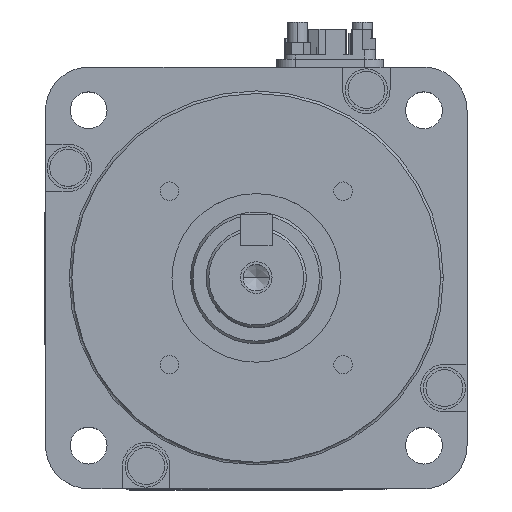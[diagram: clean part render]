
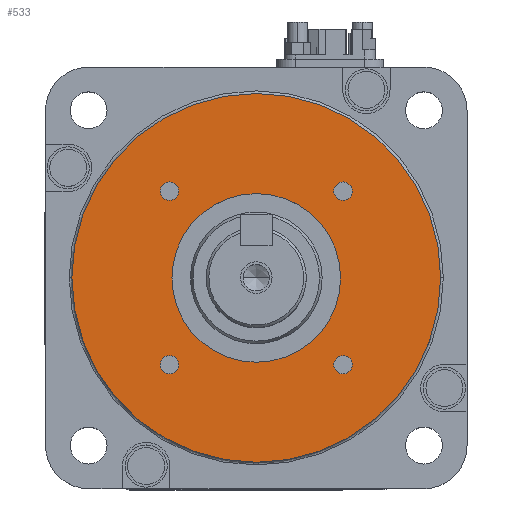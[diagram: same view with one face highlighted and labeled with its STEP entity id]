
A CAD part, top view. The second image highlights one B-rep face of the part: STEP entity #533.
In plain terms, the highlighted planar face has unit normal (0, 0, 1).
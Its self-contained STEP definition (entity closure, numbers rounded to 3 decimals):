
#533=ADVANCED_FACE('',(#4917,#4918,#4919,#4920,#4921,#4922),#4916,.T.);
#4916=PLANE('',#8308);
#4917=FACE_OUTER_BOUND('',#8309,.T.);
#4918=FACE_BOUND('',#8310,.T.);
#4919=FACE_BOUND('',#8311,.T.);
#4920=FACE_BOUND('',#8312,.T.);
#4921=FACE_BOUND('',#8313,.T.);
#4922=FACE_BOUND('',#8314,.T.);
#8305=CARTESIAN_POINT('',(-80.,-70.622,3.));
#8306=DIRECTION('',(0.,0.,1.));
#8307=DIRECTION('',(1.,0.,0.));
#8308=AXIS2_PLACEMENT_3D('',#8305,#8306,#8307);
#8309=EDGE_LOOP('',(#11277,#11278));
#8310=EDGE_LOOP('',(#11279,#11280));
#8311=EDGE_LOOP('',(#11281,#11282));
#8312=EDGE_LOOP('',(#11283,#11284));
#8313=EDGE_LOOP('',(#11285,#11286));
#8314=EDGE_LOOP('',(#11287,#11288));
#11277=ORIENTED_EDGE('',*,*,#13168,.T.);
#11278=ORIENTED_EDGE('',*,*,#13169,.T.);
#11279=ORIENTED_EDGE('',*,*,#13170,.F.);
#11280=ORIENTED_EDGE('',*,*,#13171,.F.);
#11281=ORIENTED_EDGE('',*,*,#13172,.F.);
#11282=ORIENTED_EDGE('',*,*,#13173,.F.);
#11283=ORIENTED_EDGE('',*,*,#13174,.F.);
#11284=ORIENTED_EDGE('',*,*,#13175,.F.);
#11285=ORIENTED_EDGE('',*,*,#13176,.F.);
#11286=ORIENTED_EDGE('',*,*,#13177,.F.);
#11287=ORIENTED_EDGE('',*,*,#13178,.F.);
#11288=ORIENTED_EDGE('',*,*,#13179,.F.);
#13168=EDGE_CURVE('',#21981,#21982,#21983,.T.);
#13169=EDGE_CURVE('',#21982,#21981,#21989,.T.);
#13170=EDGE_CURVE('',#21995,#21996,#21997,.T.);
#13171=EDGE_CURVE('',#21996,#21995,#22003,.T.);
#13172=EDGE_CURVE('',#22009,#22010,#22011,.T.);
#13173=EDGE_CURVE('',#22010,#22009,#22017,.T.);
#13174=EDGE_CURVE('',#22023,#22024,#22025,.T.);
#13175=EDGE_CURVE('',#22024,#22023,#22031,.T.);
#13176=EDGE_CURVE('',#22037,#22038,#22039,.T.);
#13177=EDGE_CURVE('',#22038,#22037,#22045,.T.);
#13178=EDGE_CURVE('',#22051,#22052,#22053,.T.);
#13179=EDGE_CURVE('',#22052,#22051,#22059,.T.);
#21981=VERTEX_POINT('',#28125);
#21982=VERTEX_POINT('',#28126);
#21983=CIRCLE('',#28130,35.);
#21989=CIRCLE('',#28134,35.);
#21995=VERTEX_POINT('',#28135);
#21996=VERTEX_POINT('',#28136);
#21997=CIRCLE('',#28140,1.75);
#22003=CIRCLE('',#28144,1.75);
#22009=VERTEX_POINT('',#28145);
#22010=VERTEX_POINT('',#28146);
#22011=CIRCLE('',#28150,1.75);
#22017=CIRCLE('',#28154,1.75);
#22023=VERTEX_POINT('',#28155);
#22024=VERTEX_POINT('',#28156);
#22025=CIRCLE('',#28160,1.75);
#22031=CIRCLE('',#28164,1.75);
#22037=VERTEX_POINT('',#28165);
#22038=VERTEX_POINT('',#28166);
#22039=CIRCLE('',#28170,1.75);
#22045=CIRCLE('',#28174,1.75);
#22051=VERTEX_POINT('',#28175);
#22052=VERTEX_POINT('',#28176);
#22053=CIRCLE('',#28180,16.);
#22059=CIRCLE('',#28184,16.);
#28125=CARTESIAN_POINT('',(35.,0.,3.));
#28126=CARTESIAN_POINT('',(-35.,0.,3.));
#28127=CARTESIAN_POINT('',(0.,0.,3.));
#28128=DIRECTION('',(0.,0.,1.));
#28129=DIRECTION('',(1.,0.,0.));
#28130=AXIS2_PLACEMENT_3D('',#28127,#28128,#28129);
#28131=CARTESIAN_POINT('',(0.,0.,3.));
#28132=DIRECTION('',(0.,0.,1.));
#28133=DIRECTION('',(1.,0.,0.));
#28134=AXIS2_PLACEMENT_3D('',#28131,#28132,#28133);
#28135=CARTESIAN_POINT('',(18.226,-16.476,3.));
#28136=CARTESIAN_POINT('',(14.726,-16.476,3.));
#28137=CARTESIAN_POINT('',(16.476,-16.476,3.));
#28138=DIRECTION('',(0.,0.,1.));
#28139=DIRECTION('',(-1.,0.,0.));
#28140=AXIS2_PLACEMENT_3D('',#28137,#28138,#28139);
#28141=CARTESIAN_POINT('',(16.476,-16.476,3.));
#28142=DIRECTION('',(0.,0.,1.));
#28143=DIRECTION('',(-1.,0.,0.));
#28144=AXIS2_PLACEMENT_3D('',#28141,#28142,#28143);
#28145=CARTESIAN_POINT('',(-14.726,-16.476,3.));
#28146=CARTESIAN_POINT('',(-18.226,-16.476,3.));
#28147=CARTESIAN_POINT('',(-16.476,-16.476,3.));
#28148=DIRECTION('',(0.,0.,1.));
#28149=DIRECTION('',(-1.,0.,0.));
#28150=AXIS2_PLACEMENT_3D('',#28147,#28148,#28149);
#28151=CARTESIAN_POINT('',(-16.476,-16.476,3.));
#28152=DIRECTION('',(0.,0.,1.));
#28153=DIRECTION('',(-1.,0.,0.));
#28154=AXIS2_PLACEMENT_3D('',#28151,#28152,#28153);
#28155=CARTESIAN_POINT('',(-14.726,16.476,3.));
#28156=CARTESIAN_POINT('',(-18.226,16.476,3.));
#28157=CARTESIAN_POINT('',(-16.476,16.476,3.));
#28158=DIRECTION('',(0.,0.,1.));
#28159=DIRECTION('',(-1.,0.,0.));
#28160=AXIS2_PLACEMENT_3D('',#28157,#28158,#28159);
#28161=CARTESIAN_POINT('',(-16.476,16.476,3.));
#28162=DIRECTION('',(0.,0.,1.));
#28163=DIRECTION('',(-1.,0.,0.));
#28164=AXIS2_PLACEMENT_3D('',#28161,#28162,#28163);
#28165=CARTESIAN_POINT('',(18.226,16.476,3.));
#28166=CARTESIAN_POINT('',(14.726,16.476,3.));
#28167=CARTESIAN_POINT('',(16.476,16.476,3.));
#28168=DIRECTION('',(0.,0.,1.));
#28169=DIRECTION('',(-1.,0.,0.));
#28170=AXIS2_PLACEMENT_3D('',#28167,#28168,#28169);
#28171=CARTESIAN_POINT('',(16.476,16.476,3.));
#28172=DIRECTION('',(0.,0.,1.));
#28173=DIRECTION('',(-1.,0.,0.));
#28174=AXIS2_PLACEMENT_3D('',#28171,#28172,#28173);
#28175=CARTESIAN_POINT('',(16.,0.,3.));
#28176=CARTESIAN_POINT('',(-16.,0.,3.));
#28177=CARTESIAN_POINT('',(0.,0.,3.));
#28178=DIRECTION('',(0.,0.,1.));
#28179=DIRECTION('',(-1.,0.,0.));
#28180=AXIS2_PLACEMENT_3D('',#28177,#28178,#28179);
#28181=CARTESIAN_POINT('',(0.,0.,3.));
#28182=DIRECTION('',(0.,0.,1.));
#28183=DIRECTION('',(-1.,0.,0.));
#28184=AXIS2_PLACEMENT_3D('',#28181,#28182,#28183);
